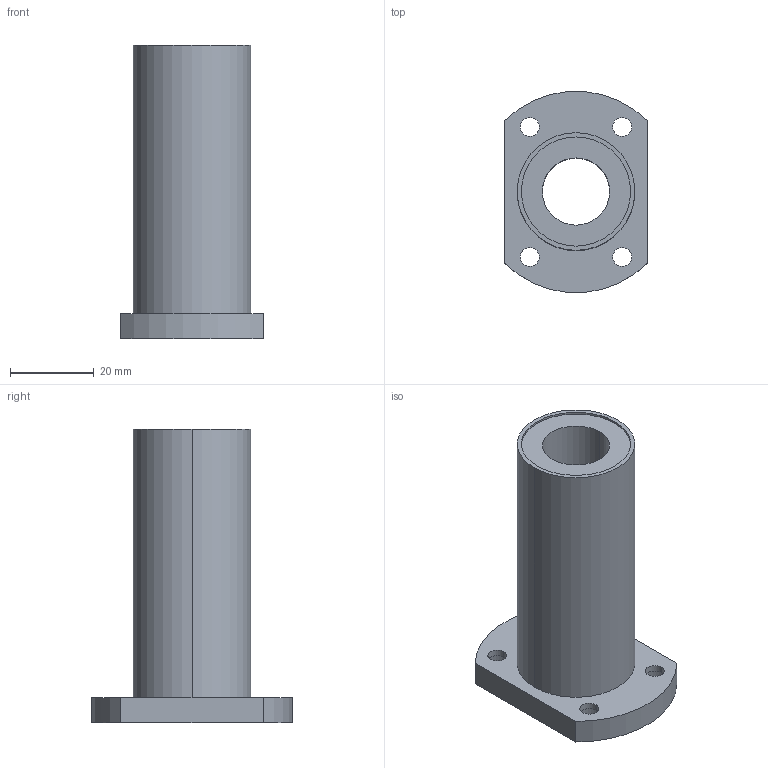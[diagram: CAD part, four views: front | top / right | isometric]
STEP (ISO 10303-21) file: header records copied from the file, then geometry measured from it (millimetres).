
FILE_DESCRIPTION((''),'2;1');
FILE_NAME('C:\Documents and Settings\ｿﾀﾀ蠑ｷ1\ｹﾙﾅﾁ ﾈｭｸ饅\ｺﾎﾇｰﾆﾄﾀﾏ\ﾁｦﾇｰ\LMH__LUU\LMH16LUU.stp','2005-06-15T10:43:59',('ｿﾀﾀ蠑ｷ1'),(''),'Autodesk Inventor 9','Autodesk Inventor 9','');
FILE_SCHEMA(('AUTOMOTIVE_DESIGN { 1 0 10303 214 1 1 1 1 }'));
Length unit declared in the file: millimetre
Products named in the file (1): LMH__
Bounding box: 34 x 47.82 x 70 mm (x, y, z)
Volume: 32706.8 mm3; surface area: 13027.6 mm2
Topology: 1 solids, 1 shells, 40 faces, 90 edges, 60 vertices
Faces by surface type: cylinder 28, plane 12
Entity records: 1193 total; most frequent: DIRECTION 228, CARTESIAN_POINT 191, ORIENTED_EDGE 180, AXIS2_PLACEMENT_3D 97, EDGE_CURVE 90, VERTEX_POINT 60, EDGE_LOOP 58, CIRCLE 56
